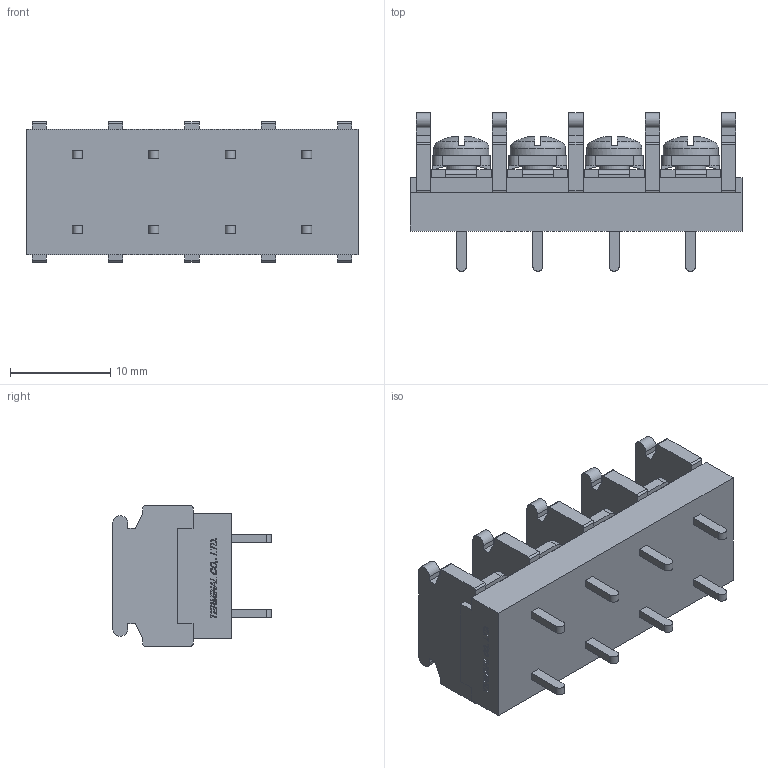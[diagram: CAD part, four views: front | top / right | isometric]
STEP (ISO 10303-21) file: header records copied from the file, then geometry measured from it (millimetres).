
FILE_DESCRIPTION(/* description */ ('Alibre Inc.'),/* implementation_level */ '2;1');
FILE_NAME(/* name */ 'export0',/* time_stamp */ '2015-10-23T20:16:27+09:00',/* author */ (''),/* organization */ (''),/* preprocessor_version */ 'ST-DEVELOPER v14',/* originating_system */ 'Alibre',/* authorisation */ '');
FILE_SCHEMA (('CONFIG_CONTROL_DESIGN'));
Length unit declared in the file: centimetre
Products named in the file (1): ID_1
Bounding box: 33.1 x 15.8 x 14 mm (x, y, z)
Volume: 3164.4 mm3; surface area: 3146.3 mm2
Topology: 1 solids, 1 shells, 870 faces, 2364 edges, 1556 vertices
Faces by surface type: plane 664, bspline 104, cylinder 70, cone 16, torus 8, sphere 8
Full cylindrical faces by diameter (mm): 3 x4, 5.5 x4
Entity records: 26189 total; most frequent: CARTESIAN_POINT 5839, ORIENTED_EDGE 4680, DIRECTION 3106, EDGE_CURVE 2340, VECTOR 1752, LINE 1752, VERTEX_POINT 1548, AXIS2_PLACEMENT_3D 987
